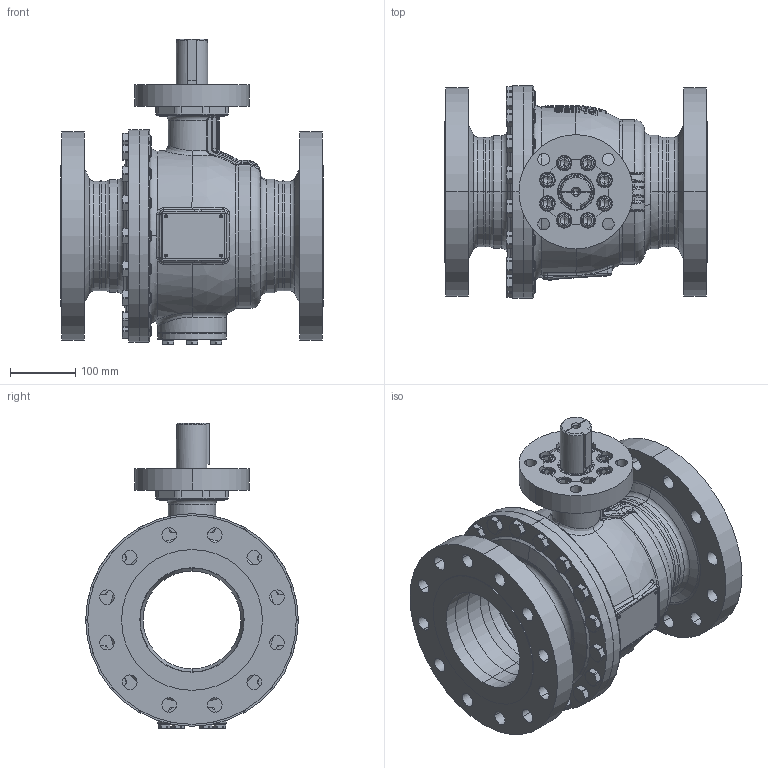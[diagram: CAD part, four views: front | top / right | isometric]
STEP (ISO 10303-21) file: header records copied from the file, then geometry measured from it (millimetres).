
FILE_DESCRIPTION((''),'2;1');
FILE_NAME('KHI-F_150_CL300-F14-P_SW0001','2026-02-05T11:11:19',('fischerkl'),('KLINGER'),'CREO PARAMETRIC BY PTC INC, 2023014','CREO PARAMETRIC BY PTC INC, 2023014','');
FILE_SCHEMA(('CONFIG_CONTROL_DESIGN'));
Products named in the file (1): KHI-F_150_CL300-F14-P_SW0001
Bounding box: 403 x 326 x 469.2 mm (x, y, z)
Volume: 10284237.9 mm3; surface area: 1685483.7 mm2
Topology: 1 solids, 4 shells, 3748 faces, 9628 edges, 6009 vertices
Faces by surface type: plane 2283, cylinder 700, cone 366, torus 258, bspline 113, sphere 28
Entity records: 145478 total; most frequent: CARTESIAN_POINT 56588, ORIENTED_EDGE 19204, DIRECTION 17587, EDGE_CURVE 9602, AXIS2_PLACEMENT_3D 6210, VERTEX_POINT 6009, VECTOR 5167, LINE 5167
